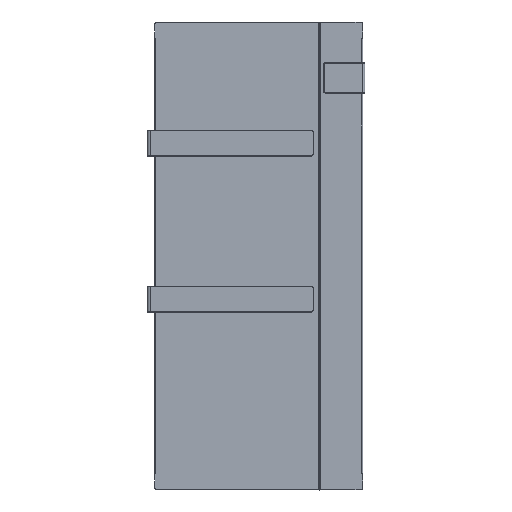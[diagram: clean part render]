
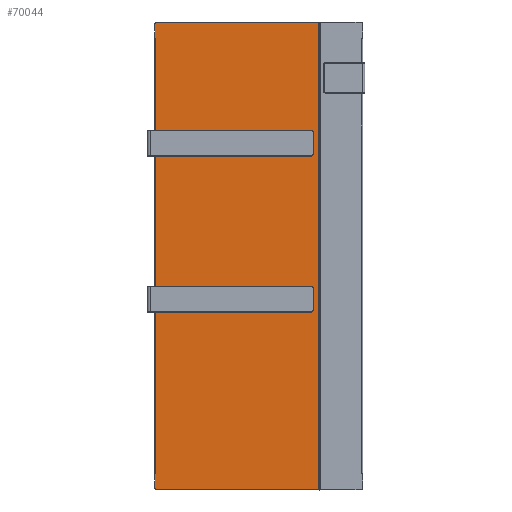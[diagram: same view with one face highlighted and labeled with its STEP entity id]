
A CAD part, top view. The second image highlights one B-rep face of the part: STEP entity #70044.
In plain terms, the highlighted planar face has unit normal (0, 0, 1).
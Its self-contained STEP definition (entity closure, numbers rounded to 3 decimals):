
#69863 = VERTEX_POINT('',#69864);
#69864 = CARTESIAN_POINT('',(114.922,-450.,1.5));
#69902 = VERTEX_POINT('',#69903);
#69903 = CARTESIAN_POINT('',(114.922,450.,1.5));
#69910 = EDGE_CURVE('',#69902,#69863,#69911,.T.);
#69911 = LINE('',#69912,#69913);
#69912 = CARTESIAN_POINT('',(114.922,450.,1.5));
#69913 = VECTOR('',#69914,1.);
#69914 = DIRECTION('',(0.,-1.,0.));
#70044 = ADVANCED_FACE('',(#70045),#70120,.T.);
#70045 = FACE_BOUND('',#70046,.F.);
#70046 = EDGE_LOOP('',(#70047,#70048,#70056,#70065,#70073,#70081,#70089,
    #70097,#70105,#70114));
#70047 = ORIENTED_EDGE('',*,*,#69910,.T.);
#70048 = ORIENTED_EDGE('',*,*,#70049,.F.);
#70049 = EDGE_CURVE('',#70050,#69863,#70052,.T.);
#70050 = VERTEX_POINT('',#70051);
#70051 = CARTESIAN_POINT('',(-195.,-450.,1.5));
#70052 = LINE('',#70053,#70054);
#70053 = CARTESIAN_POINT('',(-195.,-450.,1.5));
#70054 = VECTOR('',#70055,1.);
#70055 = DIRECTION('',(1.,0.,0.));
#70056 = ORIENTED_EDGE('',*,*,#70057,.F.);
#70057 = EDGE_CURVE('',#70058,#70050,#70060,.T.);
#70058 = VERTEX_POINT('',#70059);
#70059 = CARTESIAN_POINT('',(-200.,-445.,1.5));
#70060 = CIRCLE('',#70061,5.);
#70061 = AXIS2_PLACEMENT_3D('',#70062,#70063,#70064);
#70062 = CARTESIAN_POINT('',(-195.,-445.,1.5));
#70063 = DIRECTION('',(0.,0.,1.));
#70064 = DIRECTION('',(-1.,0.,0.));
#70065 = ORIENTED_EDGE('',*,*,#70066,.F.);
#70066 = EDGE_CURVE('',#70067,#70058,#70069,.T.);
#70067 = VERTEX_POINT('',#70068);
#70068 = CARTESIAN_POINT('',(-200.,-418.5,1.5));
#70069 = LINE('',#70070,#70071);
#70070 = CARTESIAN_POINT('',(-200.,-418.5,1.5));
#70071 = VECTOR('',#70072,1.);
#70072 = DIRECTION('',(0.,-1.,0.));
#70073 = ORIENTED_EDGE('',*,*,#70074,.F.);
#70074 = EDGE_CURVE('',#70075,#70067,#70077,.T.);
#70075 = VERTEX_POINT('',#70076);
#70076 = CARTESIAN_POINT('',(-198.,-418.5,1.5));
#70077 = LINE('',#70078,#70079);
#70078 = CARTESIAN_POINT('',(-198.,-418.5,1.5));
#70079 = VECTOR('',#70080,1.);
#70080 = DIRECTION('',(-1.,0.,0.));
#70081 = ORIENTED_EDGE('',*,*,#70082,.T.);
#70082 = EDGE_CURVE('',#70075,#70083,#70085,.T.);
#70083 = VERTEX_POINT('',#70084);
#70084 = CARTESIAN_POINT('',(-198.,418.5,1.5));
#70085 = LINE('',#70086,#70087);
#70086 = CARTESIAN_POINT('',(-198.,-418.5,1.5));
#70087 = VECTOR('',#70088,1.);
#70088 = DIRECTION('',(0.,1.,0.));
#70089 = ORIENTED_EDGE('',*,*,#70090,.T.);
#70090 = EDGE_CURVE('',#70083,#70091,#70093,.T.);
#70091 = VERTEX_POINT('',#70092);
#70092 = CARTESIAN_POINT('',(-200.,418.5,1.5));
#70093 = LINE('',#70094,#70095);
#70094 = CARTESIAN_POINT('',(-198.,418.5,1.5));
#70095 = VECTOR('',#70096,1.);
#70096 = DIRECTION('',(-1.,0.,0.));
#70097 = ORIENTED_EDGE('',*,*,#70098,.F.);
#70098 = EDGE_CURVE('',#70099,#70091,#70101,.T.);
#70099 = VERTEX_POINT('',#70100);
#70100 = CARTESIAN_POINT('',(-200.,445.,1.5));
#70101 = LINE('',#70102,#70103);
#70102 = CARTESIAN_POINT('',(-200.,445.,1.5));
#70103 = VECTOR('',#70104,1.);
#70104 = DIRECTION('',(0.,-1.,0.));
#70105 = ORIENTED_EDGE('',*,*,#70106,.F.);
#70106 = EDGE_CURVE('',#70107,#70099,#70109,.T.);
#70107 = VERTEX_POINT('',#70108);
#70108 = CARTESIAN_POINT('',(-195.,450.,1.5));
#70109 = CIRCLE('',#70110,5.);
#70110 = AXIS2_PLACEMENT_3D('',#70111,#70112,#70113);
#70111 = CARTESIAN_POINT('',(-195.,445.,1.5));
#70112 = DIRECTION('',(0.,-0.,1.));
#70113 = DIRECTION('',(0.,1.,0.));
#70114 = ORIENTED_EDGE('',*,*,#70115,.F.);
#70115 = EDGE_CURVE('',#69902,#70107,#70116,.T.);
#70116 = LINE('',#70117,#70118);
#70117 = CARTESIAN_POINT('',(114.922,450.,1.5));
#70118 = VECTOR('',#70119,1.);
#70119 = DIRECTION('',(-1.,0.,0.));
#70120 = PLANE('',#70121);
#70121 = AXIS2_PLACEMENT_3D('',#70122,#70123,#70124);
#70122 = CARTESIAN_POINT('',(0.,0.,1.5));
#70123 = DIRECTION('',(0.,0.,1.));
#70124 = DIRECTION('',(1.,0.,-0.));
